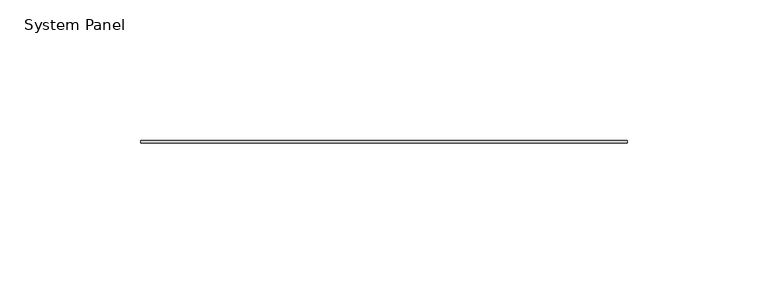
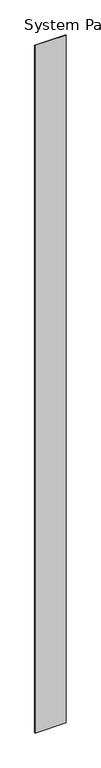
"""IFC4 building model written with IfcOpenShell, lengths in millimetres: plate geometry, System Panel : Stratco_Hiland_Interlock_Panel."""

from ifc_helpers import new_model, si_unit, origin, origin_with_axes, place, context, project, spatial, polyline, outline, extrude, source, transform, mapped, element, save


def system_panel_c1fad650(model_context):
    return source(origin(), model_context, "Body", "SweptSolid", [
        extrude(outline(polyline([(86.5000002, 24.0), (-86.5000002, 24.0), (-86.5000002, 25.0), (86.5000002, 25.0), (86.5000002, 24.0)])), origin_with_axes(), (0.0, 0.0, 1.0), 4000.0),
    ])


if __name__ == "__main__":
    model = new_model("IFC4")
    model_context = context("Model", 3, world=origin())
    ifc_project = project(units=[si_unit("LENGTHUNIT", "METRE", prefix="MILLI")], contexts=[model_context])
    site = spatial("IfcSite", under=ifc_project)
    building = spatial("IfcBuilding", under=site)
    placement = place(None, origin())
    system_panel_shape = system_panel_c1fad650(model_context)
    element("IfcPlate", 1, ObjectType="System Panel : Stratco_Hiland_Interlock_Panel", at=placement, inside=building, context=model_context, shape_type="MappedRepresentation", body=[
        mapped(system_panel_shape, transform((0.0, 0.0, 0.0), x_axis=(1.0, 0.0, 0.0), y_axis=(0.0, 1.0, 0.0), z_axis=(0.0, 0.0, 1.0))),
    ])
    save(model, "model.ifc")
